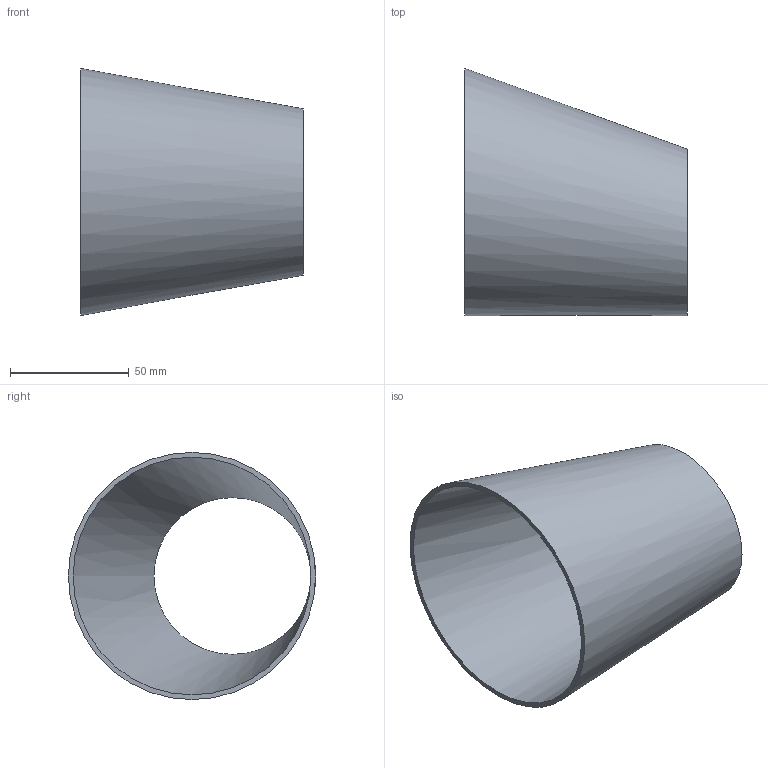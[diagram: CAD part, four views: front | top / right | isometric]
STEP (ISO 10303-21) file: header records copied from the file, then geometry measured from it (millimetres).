
FILE_DESCRIPTION(('FreeCAD Model'),'2;1');
FILE_NAME( '/home/martin/Documents/proyect/accesorios/stp/red-exc_DN100-65.step', '2017-12-31T13:04:46',('Author'),(''), 'Open CASCADE STEP processor 6.8','FreeCAD','Unknown');
FILE_SCHEMA(('AUTOMOTIVE_DESIGN_CC2 { 1 2 10303 214 -1 1 5 4 }'));
Length unit declared in the file: millimetre
Products named in the file (1): red-exc_DN100-65
Bounding box: 93.5 x 104 x 104 mm (x, y, z)
Volume: 49935.6 mm3; surface area: 52213.5 mm2
Topology: 1 solids, 1 shells, 4 faces, 6 edges, 4 vertices
Faces by surface type: bspline 2, plane 2
Entity records: 299 total; most frequent: CARTESIAN_POINT 139, DIRECTION 26, ORIENTED_EDGE 12, PCURVE 12, DEFINITIONAL_REPRESENTATION 12, CIRCLE 8, LINE 8, VECTOR 8
